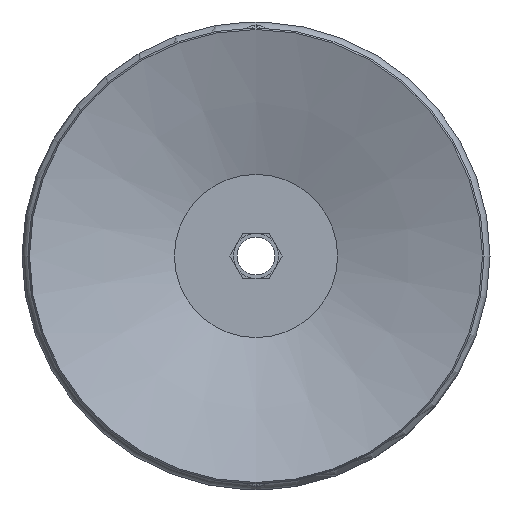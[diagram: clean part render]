
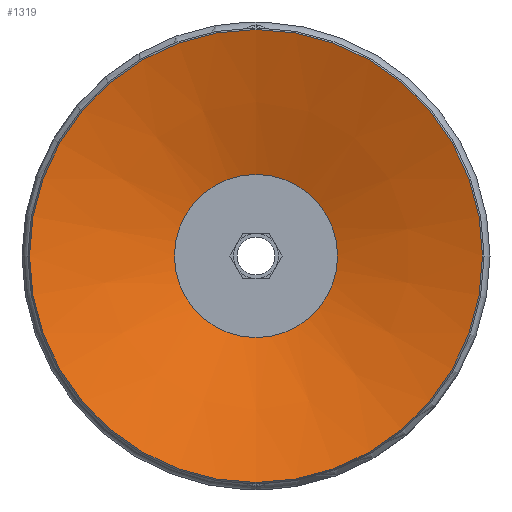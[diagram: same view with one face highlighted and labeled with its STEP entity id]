
A CAD part, front view. The second image highlights one B-rep face of the part: STEP entity #1319.
In plain terms, the highlighted conical face has half-angle 71.075 degrees and reference radius 15 mm.
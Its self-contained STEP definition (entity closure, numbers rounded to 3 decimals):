
#1319=ADVANCED_FACE('',(#3199,#3200),#3201,.F.);
#3199=FACE_BOUND('',#5905,.T.);
#3200=FACE_OUTER_BOUND('',#5906,.T.);
#3201=CONICAL_SURFACE('',#5907,15.0,1.24);
#5905=EDGE_LOOP('',(#9637));
#5906=EDGE_LOOP('',(#9638));
#5907=AXIS2_PLACEMENT_3D('',#9639,#9640,#9641);
#9637=ORIENTED_EDGE('',*,*,#16394,.T.);
#9638=ORIENTED_EDGE('',*,*,#16395,.T.);
#9639=CARTESIAN_POINT('',(0.,0.,0.0));
#9640=DIRECTION('',(0.0,0.,-1.0));
#9641=DIRECTION('',(0.0,1.0,0.));
#16394=EDGE_CURVE('',#20149,#20149,#20150,.T.);
#16395=EDGE_CURVE('',#20151,#20151,#20152,.T.);
#20149=VERTEX_POINT('',#26768);
#20150=CIRCLE('',#26769,5.4);
#20151=VERTEX_POINT('',#26770);
#20152=CIRCLE('',#26771,15.0);
#26768=CARTESIAN_POINT('',(-5.4,0.,3.291));
#26769=AXIS2_PLACEMENT_3D('',#32196,#32197,#32198);
#26770=CARTESIAN_POINT('',(0.,15.0,0.));
#26771=AXIS2_PLACEMENT_3D('',#32199,#32200,#32201);
#32196=CARTESIAN_POINT('',(0.,0.,3.291));
#32197=DIRECTION('',(0.,0.0,1.0));
#32198=DIRECTION('',(-1.0,0.0,0.));
#32199=CARTESIAN_POINT('',(0.,0.,0.0));
#32200=DIRECTION('',(0.0,0.,-1.0));
#32201=DIRECTION('',(0.0,1.0,0.));
